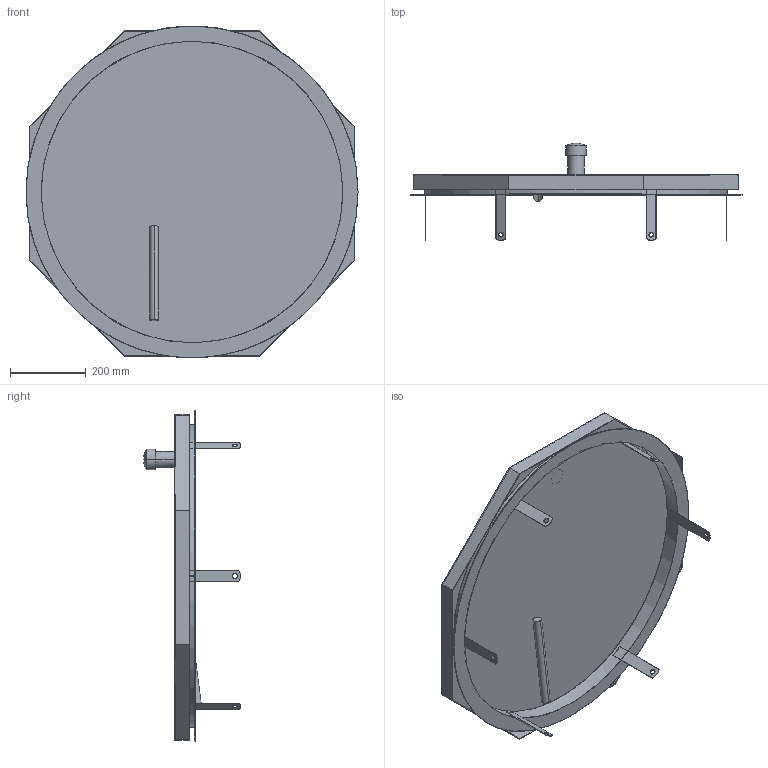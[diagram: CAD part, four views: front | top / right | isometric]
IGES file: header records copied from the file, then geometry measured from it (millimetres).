
Start section:  PTC IGES file: 017_000107.igs
Global section: file name: 017_000107.igs; native system: Creo Parametric by Parametric Technology Corporation; preprocessor: 2015280; author: set; organization: Unknown; date: 20170612.104826; units: millimetre
Bounding box: 875 x 256 x 874.7 mm (x, y, z)
Surface area: 1923444.7 mm2 (no closed solid volume)
Topology: 0 solids, 0 shells, 87 faces, 688 edges, 810 vertices
Faces by surface type: bspline 55, revolution 32
